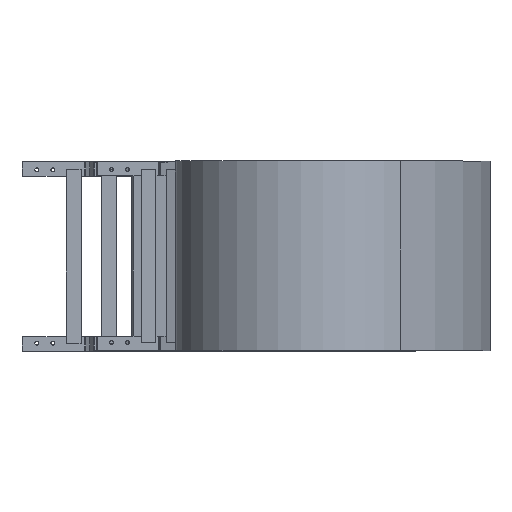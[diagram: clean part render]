
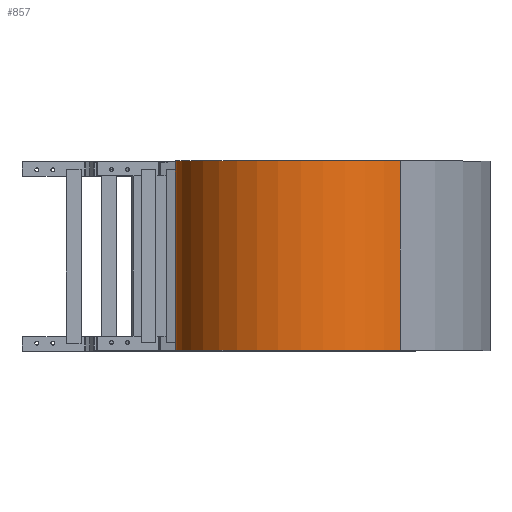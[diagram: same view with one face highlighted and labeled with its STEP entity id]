
A CAD part, top view. The second image highlights one B-rep face of the part: STEP entity #857.
In plain terms, the highlighted cylindrical face has radius 200 mm (diameter 400 mm), a partial arc.
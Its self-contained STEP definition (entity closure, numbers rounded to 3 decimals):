
#857 = ADVANCED_FACE( '', ( #1727 ), #1728, .T. );
#1727 = FACE_OUTER_BOUND( '', #2587, .T. );
#1728 = CYLINDRICAL_SURFACE( '', #2588, 200. );
#2587 = EDGE_LOOP( '', ( #5040, #5041, #5042, #5043 ) );
#2588 = AXIS2_PLACEMENT_3D( '', #5044, #5045, #5046 );
#5040 = ORIENTED_EDGE( '', *, *, #6128, .T. );
#5041 = ORIENTED_EDGE( '', *, *, #6196, .F. );
#5042 = ORIENTED_EDGE( '', *, *, #6142, .F. );
#5043 = ORIENTED_EDGE( '', *, *, #5742, .T. );
#5044 = CARTESIAN_POINT( '', ( 273.499, 147.5, 241.709 ) );
#5045 = DIRECTION( '', ( 0., 1., 0. ) );
#5046 = DIRECTION( '', ( 0., 0., -1. ) );
#5742 = EDGE_CURVE( '', #7133, #7130, #7134, .T. );
#6128 = EDGE_CURVE( '', #7130, #7643, #7645, .T. );
#6142 = EDGE_CURVE( '', #7133, #7660, #7661, .T. );
#6196 = EDGE_CURVE( '', #7660, #7643, #7718, .T. );
#7130 = VERTEX_POINT( '', #9031 );
#7133 = VERTEX_POINT( '', #9034 );
#7134 = LINE( '', #9035, #9036 );
#7643 = VERTEX_POINT( '', #9768 );
#7645 = CIRCLE( '', #9770, 200. );
#7660 = VERTEX_POINT( '', #9791 );
#7661 = CIRCLE( '', #9792, 200. );
#7718 = LINE( '', #9864, #9865 );
#9031 = CARTESIAN_POINT( '', ( 123.637, -147.5, 109.266 ) );
#9034 = CARTESIAN_POINT( '', ( 123.637, 147.5, 109.266 ) );
#9035 = CARTESIAN_POINT( '', ( 123.637, 147.5, 109.266 ) );
#9036 = VECTOR( '', #10471, 1000. );
#9768 = CARTESIAN_POINT( '', ( 423.362, -147.5, 374.152 ) );
#9770 = AXIS2_PLACEMENT_3D( '', #10842, #10843, #10844 );
#9791 = CARTESIAN_POINT( '', ( 423.362, 147.5, 374.152 ) );
#9792 = AXIS2_PLACEMENT_3D( '', #10851, #10852, #10853 );
#9864 = CARTESIAN_POINT( '', ( 423.362, 147.5, 374.152 ) );
#9865 = VECTOR( '', #10878, 1000. );
#10471 = DIRECTION( '', ( 0., -1., 0. ) );
#10842 = CARTESIAN_POINT( '', ( 273.499, -147.5, 241.709 ) );
#10843 = DIRECTION( '', ( 0., 1., 0. ) );
#10844 = DIRECTION( '', ( 1., 0., 0. ) );
#10851 = CARTESIAN_POINT( '', ( 273.499, 147.5, 241.709 ) );
#10852 = DIRECTION( '', ( 0., 1., 0. ) );
#10853 = DIRECTION( '', ( 1., 0., 0. ) );
#10878 = DIRECTION( '', ( 0., -1., 0. ) );
